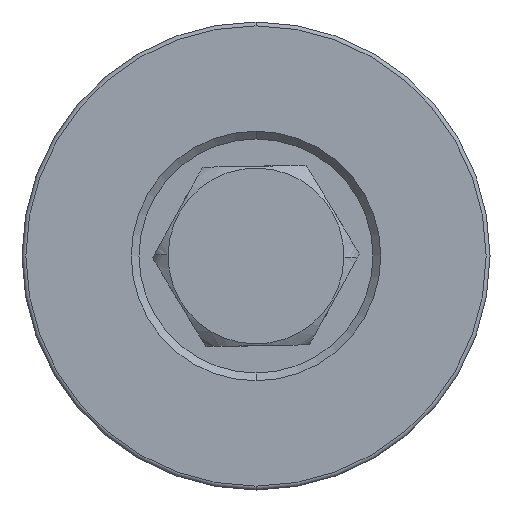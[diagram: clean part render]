
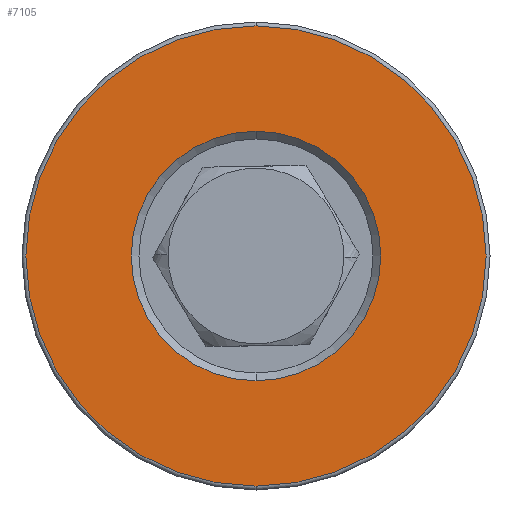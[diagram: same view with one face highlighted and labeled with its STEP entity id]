
A CAD part, front view. The second image highlights one B-rep face of the part: STEP entity #7105.
In plain terms, the highlighted planar face has unit normal (0, -1, 0).
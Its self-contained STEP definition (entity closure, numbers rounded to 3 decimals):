
#63 = AXIS2_PLACEMENT_3D ( 'NONE', #1710, #7572, #8478 ) ;
#235 = EDGE_LOOP ( 'NONE', ( #1659, #9695 ) ) ;
#452 = DIRECTION ( 'NONE',  ( 0., 0., 1. ) ) ;
#497 = CARTESIAN_POINT ( 'NONE',  ( 0., -27., 29.5 ) ) ;
#1014 = VERTEX_POINT ( 'NONE', #497 ) ;
#1457 = CIRCLE ( 'NONE', #7202, 16. ) ;
#1630 = CARTESIAN_POINT ( 'NONE',  ( 0., -27., 0. ) ) ;
#1659 = ORIENTED_EDGE ( 'NONE', *, *, #3114, .T. ) ;
#1710 = CARTESIAN_POINT ( 'NONE',  ( 0., -27., 0. ) ) ;
#2063 = DIRECTION ( 'NONE',  ( 0., 0., 1. ) ) ;
#2101 = EDGE_LOOP ( 'NONE', ( #8869, #9339 ) ) ;
#2225 = DIRECTION ( 'NONE',  ( 0., 0., 1. ) ) ;
#2504 = DIRECTION ( 'NONE',  ( 0., 0., 1. ) ) ;
#2804 = AXIS2_PLACEMENT_3D ( 'NONE', #5125, #3404, #2225 ) ;
#3114 = EDGE_CURVE ( 'NONE', #1014, #7630, #11025, .T. ) ;
#3404 = DIRECTION ( 'NONE',  ( 0., -1., 0. ) ) ;
#3580 = EDGE_CURVE ( 'NONE', #7488, #4620, #9365, .T. ) ;
#3915 = EDGE_CURVE ( 'NONE', #7630, #1014, #11200, .T. ) ;
#4242 = DIRECTION ( 'NONE',  ( 0., 1., 0. ) ) ;
#4620 = VERTEX_POINT ( 'NONE', #10520 ) ;
#4673 = CARTESIAN_POINT ( 'NONE',  ( 0., -27., 0. ) ) ;
#5025 = PLANE ( 'NONE',  #7705 ) ;
#5122 = CARTESIAN_POINT ( 'NONE',  ( 0., -27., 0. ) ) ;
#5125 = CARTESIAN_POINT ( 'NONE',  ( 0., -27., 0. ) ) ;
#6125 = AXIS2_PLACEMENT_3D ( 'NONE', #1630, #4242, #452 ) ;
#6722 = CARTESIAN_POINT ( 'NONE',  ( 0., -27., -29.5 ) ) ;
#7105 = ADVANCED_FACE ( 'NONE', ( #8880, #7408 ), #5025, .F. ) ;
#7202 = AXIS2_PLACEMENT_3D ( 'NONE', #5122, #8649, #2504 ) ;
#7408 = FACE_OUTER_BOUND ( 'NONE', #235, .T. ) ;
#7488 = VERTEX_POINT ( 'NONE', #8056 ) ;
#7572 = DIRECTION ( 'NONE',  ( 0., -1., 0. ) ) ;
#7630 = VERTEX_POINT ( 'NONE', #6722 ) ;
#7705 = AXIS2_PLACEMENT_3D ( 'NONE', #4673, #8560, #2063 ) ;
#8056 = CARTESIAN_POINT ( 'NONE',  ( 0., -27., 16. ) ) ;
#8478 = DIRECTION ( 'NONE',  ( 0., 0., 1. ) ) ;
#8560 = DIRECTION ( 'NONE',  ( 0., 1., 0. ) ) ;
#8649 = DIRECTION ( 'NONE',  ( 0., 1., 0. ) ) ;
#8869 = ORIENTED_EDGE ( 'NONE', *, *, #10113, .T. ) ;
#8880 = FACE_BOUND ( 'NONE', #2101, .T. ) ;
#9339 = ORIENTED_EDGE ( 'NONE', *, *, #3580, .T. ) ;
#9365 = CIRCLE ( 'NONE', #6125, 16. ) ;
#9695 = ORIENTED_EDGE ( 'NONE', *, *, #3915, .T. ) ;
#10113 = EDGE_CURVE ( 'NONE', #4620, #7488, #1457, .T. ) ;
#10520 = CARTESIAN_POINT ( 'NONE',  ( 0., -27., -16. ) ) ;
#11025 = CIRCLE ( 'NONE', #2804, 29.5 ) ;
#11200 = CIRCLE ( 'NONE', #63, 29.5 ) ;
